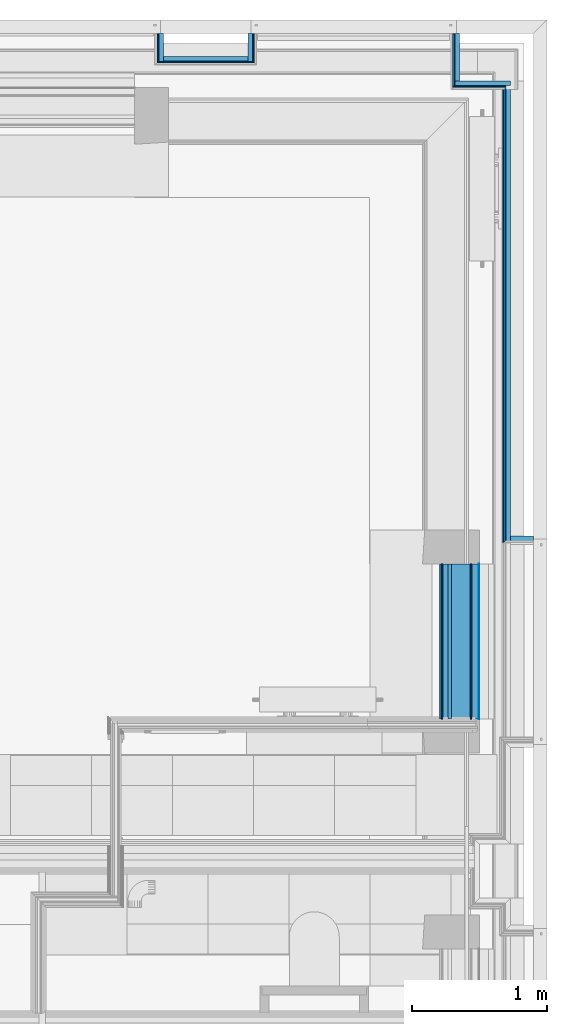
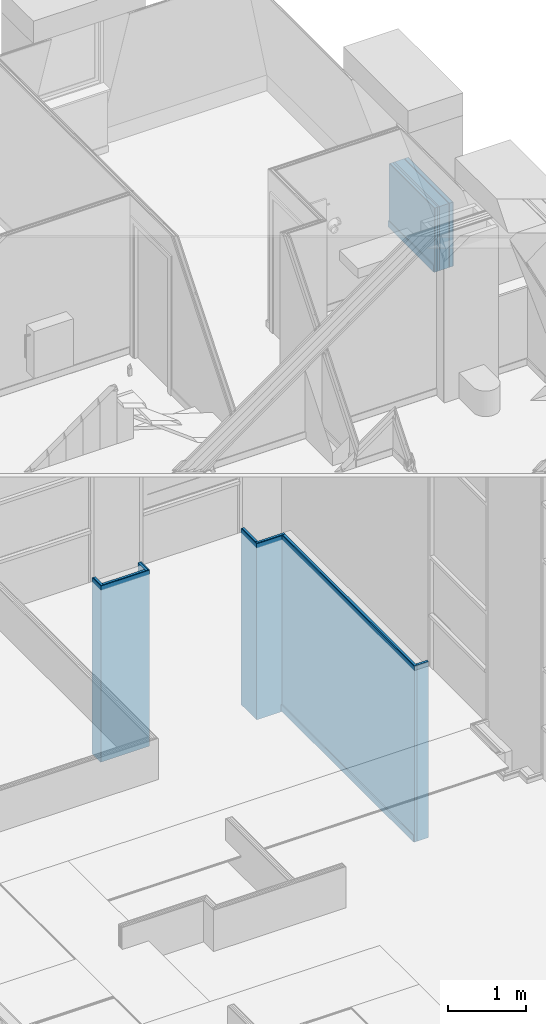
# One storey, part 48 of 169: 22 building element parts, 8 elements without a shape of their own.
"""IFC2X3 building model written with IfcOpenShell, lengths in metres."""

from ifc_helpers import new_model, entity, si_unit, converted_unit, derived_unit, money_unit, direction, frame, frame_2d, origin_with_axes, place, context, subcontext, project, spatial, polyline, rectangle, outline, extrude, material, type_object, element, aggregate, save


model = new_model("IFC2X3")

# Units and contexts
model_context = context("Model", 3, precision=1e-05, world=origin_with_axes(), true_north=direction((0.0, 1.0)))
body_context = subcontext(model_context, "Body", "Model", "MODEL_VIEW", scale=1.0)
ifc_project = project(units=[si_unit("LENGTHUNIT", "METRE"), si_unit("AREAUNIT", "SQUARE_METRE"), si_unit("VOLUMEUNIT", "CUBIC_METRE"), si_unit("ABSORBEDDOSEUNIT", "GRAY"), si_unit("AMOUNTOFSUBSTANCEUNIT", "MOLE"), si_unit("DOSEEQUIVALENTUNIT", "SIEVERT"), si_unit("ELECTRICCAPACITANCEUNIT", "FARAD"), si_unit("ELECTRICCHARGEUNIT", "COULOMB"), si_unit("ELECTRICCONDUCTANCEUNIT", "SIEMENS"), si_unit("ELECTRICCURRENTUNIT", "AMPERE"), si_unit("ELECTRICRESISTANCEUNIT", "OHM"), si_unit("ELECTRICVOLTAGEUNIT", "VOLT"), si_unit("ENERGYUNIT", "JOULE"), si_unit("FORCEUNIT", "NEWTON"), si_unit("FREQUENCYUNIT", "HERTZ"), si_unit("ILLUMINANCEUNIT", "LUX"), si_unit("INDUCTANCEUNIT", "HENRY"), si_unit("LUMINOUSFLUXUNIT", "LUMEN"), si_unit("LUMINOUSINTENSITYUNIT", "CANDELA"), si_unit("MAGNETICFLUXDENSITYUNIT", "TESLA"), si_unit("MAGNETICFLUXUNIT", "WEBER"), si_unit("MASSUNIT", "GRAM"), converted_unit("PLANEANGLEUNIT", "degree", entity("IfcReal", 0.0174532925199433), si_unit("PLANEANGLEUNIT", "RADIAN"), dimensions=[0, 0, 0, 0, 0, 0, 0]), si_unit("POWERUNIT", "WATT"), si_unit("PRESSUREUNIT", "PASCAL"), si_unit("RADIOACTIVITYUNIT", "BECQUEREL"), si_unit("SOLIDANGLEUNIT", "STERADIAN"), si_unit("THERMODYNAMICTEMPERATUREUNIT", "KELVIN"), si_unit("TIMEUNIT", "SECOND"), derived_unit("ACCELERATIONUNIT", [(si_unit("LENGTHUNIT", "METRE"), 1), (si_unit("TIMEUNIT", "SECOND"), -2)]), derived_unit("ANGULARVELOCITYUNIT", [(converted_unit("PLANEANGLEUNIT", "degree", entity("IfcReal", 0.0174532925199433), si_unit("PLANEANGLEUNIT", "RADIAN"), dimensions=[0, 0, 0, 0, 0, 0, 0]), 1), (si_unit("TIMEUNIT", "SECOND"), -1)]), derived_unit("CURVATUREUNIT", [(converted_unit("PLANEANGLEUNIT", "degree", entity("IfcReal", 0.0174532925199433), si_unit("PLANEANGLEUNIT", "RADIAN"), dimensions=[0, 0, 0, 0, 0, 0, 0]), 1), (si_unit("LENGTHUNIT", "METRE"), -1)]), derived_unit("DYNAMICVISCOSITYUNIT", [(si_unit("PRESSUREUNIT", "PASCAL"), 1), (si_unit("TIMEUNIT", "SECOND"), 1)]), derived_unit("HEATFLUXDENSITYUNIT", [(si_unit("POWERUNIT", "WATT"), 1), (si_unit("LENGTHUNIT", "METRE"), -2)]), derived_unit("HEATINGVALUEUNIT", [(si_unit("ENERGYUNIT", "JOULE"), 1), (si_unit("MASSUNIT", "GRAM"), -1)]), derived_unit("INTEGERCOUNTRATEUNIT", [(si_unit("TIMEUNIT", "SECOND"), -1)]), derived_unit("IONCONCENTRATIONUNIT", [(si_unit("MASSUNIT", "GRAM"), 1), (si_unit("VOLUMEUNIT", "CUBIC_METRE"), -1)]), derived_unit("ISOTHERMALMOISTURECAPACITYUNIT", [(si_unit("VOLUMEUNIT", "CUBIC_METRE"), 1), (si_unit("MASSUNIT", "GRAM"), -1)]), derived_unit("KINEMATICVISCOSITYUNIT", [(si_unit("AREAUNIT", "SQUARE_METRE"), 1), (si_unit("TIMEUNIT", "SECOND"), -1)]), derived_unit("LINEARFORCEUNIT", [(si_unit("FORCEUNIT", "NEWTON"), 1), (si_unit("LENGTHUNIT", "METRE"), -1)]), derived_unit("LINEARMOMENTUNIT", [(si_unit("FORCEUNIT", "NEWTON"), 1), (si_unit("LENGTHUNIT", "METRE"), -1)]), derived_unit("LINEARSTIFFNESSUNIT", [(si_unit("FORCEUNIT", "NEWTON"), 1), (si_unit("LENGTHUNIT", "METRE"), -1)]), derived_unit("LINEARVELOCITYUNIT", [(si_unit("LENGTHUNIT", "METRE"), 1), (si_unit("TIMEUNIT", "SECOND"), -1)]), derived_unit("LUMINOUSINTENSITYDISTRIBUTIONUNIT", [(si_unit("LUMINOUSINTENSITYUNIT", "CANDELA"), 1), (si_unit("LUMINOUSFLUXUNIT", "LUMEN"), -1)]), derived_unit("MASSDENSITYUNIT", [(si_unit("MASSUNIT", "GRAM"), 1), (si_unit("VOLUMEUNIT", "CUBIC_METRE"), -1)]), derived_unit("MASSFLOWRATEUNIT", [(si_unit("MASSUNIT", "GRAM"), 1), (si_unit("TIMEUNIT", "SECOND"), -1)]), derived_unit("MASSPERLENGTHUNIT", [(si_unit("MASSUNIT", "GRAM"), 1), (si_unit("LENGTHUNIT", "METRE"), -1)]), derived_unit("MODULUSOFELASTICITYUNIT", [(si_unit("FORCEUNIT", "NEWTON"), 1), (si_unit("AREAUNIT", "SQUARE_METRE"), -1)]), derived_unit("MODULUSOFLINEARSUBGRADEREACTIONUNIT", [(si_unit("FORCEUNIT", "NEWTON"), 1), (si_unit("LENGTHUNIT", "METRE"), -2)]), derived_unit("MODULUSOFROTATIONALSUBGRADEREACTIONUNIT", [(si_unit("FORCEUNIT", "NEWTON"), 1), (si_unit("LENGTHUNIT", "METRE"), 1)]), derived_unit("MODULUSOFSUBGRADEREACTIONUNIT", [(si_unit("FORCEUNIT", "NEWTON"), 1), (si_unit("VOLUMEUNIT", "CUBIC_METRE"), -1)]), derived_unit("MOISTUREDIFFUSIVITYUNIT", [(si_unit("VOLUMEUNIT", "CUBIC_METRE"), 1), (si_unit("TIMEUNIT", "SECOND"), -1)]), derived_unit("MOLECULARWEIGHTUNIT", [(si_unit("MASSUNIT", "GRAM"), 1), (si_unit("AMOUNTOFSUBSTANCEUNIT", "MOLE"), -1)]), derived_unit("PLANARFORCEUNIT", [(si_unit("FORCEUNIT", "NEWTON"), 1), (si_unit("LENGTHUNIT", "METRE"), -2)]), derived_unit("ROTATIONALFREQUENCYUNIT", [(si_unit("TIMEUNIT", "SECOND"), -1)]), derived_unit("ROTATIONALMASSUNIT", [(si_unit("MASSUNIT", "GRAM"), 1), (si_unit("LENGTHUNIT", "METRE"), 2)]), derived_unit("ROTATIONALSTIFFNESSUNIT", [(si_unit("FORCEUNIT", "NEWTON"), 1), (si_unit("LENGTHUNIT", "METRE"), 1), (converted_unit("PLANEANGLEUNIT", "degree", entity("IfcReal", 0.0174532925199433), si_unit("PLANEANGLEUNIT", "RADIAN"), dimensions=[0, 0, 0, 0, 0, 0, 0]), -1)]), derived_unit("SECTIONAREAINTEGRALUNIT", [(si_unit("LENGTHUNIT", "METRE"), 5)]), derived_unit("SECTIONMODULUSUNIT", [(si_unit("LENGTHUNIT", "METRE"), 3)]), derived_unit("SHEARMODULUSUNIT", [(si_unit("FORCEUNIT", "NEWTON"), 1), (si_unit("AREAUNIT", "SQUARE_METRE"), -1)]), derived_unit("SOUNDPOWERUNIT", [(si_unit("ENERGYUNIT", "JOULE"), 1), (si_unit("TIMEUNIT", "SECOND"), -1)]), derived_unit("SPECIFICHEATCAPACITYUNIT", [(si_unit("FORCEUNIT", "NEWTON"), 1), (si_unit("MASSUNIT", "GRAM"), -1), (si_unit("THERMODYNAMICTEMPERATUREUNIT", "KELVIN"), -1)]), derived_unit("TEMPERATUREGRADIENTUNIT", [(si_unit("THERMODYNAMICTEMPERATUREUNIT", "KELVIN"), 1), (si_unit("LENGTHUNIT", "METRE"), -1)]), derived_unit("THERMALADMITTANCEUNIT", [(si_unit("POWERUNIT", "WATT"), 1), (si_unit("AREAUNIT", "SQUARE_METRE"), -1), (si_unit("THERMODYNAMICTEMPERATUREUNIT", "KELVIN"), -1)]), derived_unit("THERMALCONDUCTANCEUNIT", [(si_unit("POWERUNIT", "WATT"), 1), (si_unit("LENGTHUNIT", "METRE"), -1), (si_unit("THERMODYNAMICTEMPERATUREUNIT", "KELVIN"), -1)]), derived_unit("THERMALEXPANSIONCOEFFICIENTUNIT", [(si_unit("THERMODYNAMICTEMPERATUREUNIT", "KELVIN"), -1)]), derived_unit("THERMALRESISTANCEUNIT", [(si_unit("AREAUNIT", "SQUARE_METRE"), 1), (si_unit("POWERUNIT", "WATT"), -1)]), derived_unit("THERMALTRANSMITTANCEUNIT", [(si_unit("POWERUNIT", "WATT"), 1), (si_unit("AREAUNIT", "SQUARE_METRE"), -1), (si_unit("THERMODYNAMICTEMPERATUREUNIT", "KELVIN"), -1)]), derived_unit("TORQUEUNIT", [(si_unit("FORCEUNIT", "NEWTON"), 1), (si_unit("LENGTHUNIT", "METRE"), 1)]), derived_unit("VAPORPERMEABILITYUNIT", [(si_unit("MASSUNIT", "GRAM"), 1), (si_unit("TIMEUNIT", "SECOND"), -1)]), derived_unit("VOLUMETRICFLOWRATEUNIT", [(si_unit("VOLUMEUNIT", "CUBIC_METRE"), 1), (si_unit("TIMEUNIT", "SECOND"), -1)]), derived_unit("WARPINGCONSTANTUNIT", [(si_unit("LENGTHUNIT", "METRE"), 6)]), derived_unit("WARPINGMOMENTUNIT", [(si_unit("FORCEUNIT", "NEWTON"), 1), (si_unit("LENGTHUNIT", "METRE"), 2)]), money_unit("GBP")], contexts=[model_context])

# Site, building, storey
site_placement = place(None, origin_with_axes())
site = spatial("IfcSite", under=ifc_project, at=site_placement, Name="Site", CompositionType="ELEMENT")
building_placement = place(site_placement, origin_with_axes())
building = spatial("IfcBuilding", under=site, at=building_placement, Name="Building01", CompositionType="ELEMENT")
storey_placement = place(building_placement, frame((0.0, 0.0, 5.15), z_axis=(0.0, 0.0, 1.0), x_axis=(1.0, 0.0, 0.0)))
storey = spatial("IfcBuildingStorey", under=building, at=storey_placement, Name="1F", CompositionType="ELEMENT", Elevation=5.15)

# Wall, building element part
wall_type_1 = type_object("IfcWallType", Name="SHE_A-Walls_Type06d_ExternalWallInsulation_48mm", PredefinedType="NOTDEFINED")
wall_1_placement = place(storey_placement, frame((26.71, 11.08018, 0.0), z_axis=(0.0, 0.0, 1.0), x_axis=(1.0, 0.0, 0.0)))
wall_1 = element("IfcWall", 1, at=wall_1_placement, inside=storey, type_object=wall_type_1, Name="6D", ObjectType="SHE_A-Walls_Type06d_ExternalWallInsulation_48mm")
ifc_material_1 = material(Name="A_BSUK_Insulation")
building_element_part_1_placement = place(wall_1_placement, origin_with_axes())
building_element_part_1 = element("IfcBuildingElementPart", 2, at=building_element_part_1_placement, material=ifc_material_1, Name="3", context=body_context, shape_type="SweptSolid", body=[
    extrude(rectangle(XDim=0.036, YDim=0.17, at=frame_2d((0.085, -0.018), x_axis=(0.0, -1.0))), origin_with_axes(), (0.0, 0.0, 1.0), 2.74),
])
aggregate(wall_1, [building_element_part_1])

# Wall, building element parts
wall_2_placement = place(storey_placement, frame((26.71, 11.04418, 0.0), z_axis=(0.0, 0.0, 1.0), x_axis=(0.0, 1.0, 0.0)))
wall_2 = element("IfcWall", 3, at=wall_2_placement, inside=storey, type_object=wall_type_1, Name="6D", ObjectType="SHE_A-Walls_Type06d_ExternalWallInsulation_48mm")
placement_1 = place(wall_2_placement, origin_with_axes())
building_element_part_2 = element("IfcBuildingElementPart", 4, at=placement_1, material=ifc_material_1, Name="1", context=body_context, shape_type="SweptSolid", body=[
    extrude(rectangle(XDim=3.36982, YDim=0.036, at=frame_2d((1.68491, 0.018), x_axis=(-1.0, 0.0))), origin_with_axes(), (0.0, 0.0, 1.0), 2.74),
])
ifc_material_2 = material(Name="A_BSUK_WallInternal_Finishes_Plasterboard")
building_element_part_3 = element("IfcBuildingElementPart", 5, at=placement_1, material=ifc_material_2, Name="2", context=body_context, shape_type="SweptSolid", body=[
    extrude(outline(polyline([(3.35782, 0.048), (-0.012, 0.048), (0.001, 0.035), (3.35782, 0.035), (3.35782, 0.048)])), origin_with_axes(), (0.0, 0.0, 1.0), 2.74),
])
ifc_material_3 = material(Name="A_BSUK_Walls_Timber")
building_element_part_4 = element("IfcBuildingElementPart", 6, at=placement_1, material=ifc_material_3, Name="3", context=body_context, shape_type="SweptSolid", body=[
    extrude(outline(polyline([(3.35782, 0.063), (-0.012, 0.063), (-0.012, 0.048), (3.37282, 0.048), (3.35782, 0.063)])), frame((0.0, 0.0, 0.015), z_axis=(0.0, 0.0, 1.0), x_axis=(1.0, 0.0, 0.0)), (0.0, 0.0, 1.0), 0.1),
])
aggregate(wall_2, [building_element_part_2, building_element_part_3, building_element_part_4])

wall_3_placement = place(storey_placement, frame((26.71, 14.45, 0.0), z_axis=(0.0, 0.0, 1.0), x_axis=(-1.0, 0.0, 0.0)))
wall_3 = element("IfcWall", 7, at=wall_3_placement, inside=storey, type_object=wall_type_1, Name="6D", ObjectType="SHE_A-Walls_Type06d_ExternalWallInsulation_48mm")
placement_2 = place(wall_3_placement, origin_with_axes())
building_element_part_5 = element("IfcBuildingElementPart", 8, at=placement_2, material=ifc_material_1, Name="1", context=body_context, shape_type="SweptSolid", body=[
    extrude(rectangle(XDim=0.413, YDim=0.036, at=frame_2d((0.2065, 0.018), x_axis=(-1.0, 0.0))), origin_with_axes(), (0.0, 0.0, 1.0), 2.74),
])
building_element_part_6 = element("IfcBuildingElementPart", 9, at=placement_2, material=ifc_material_2, Name="2", context=body_context, shape_type="SweptSolid", body=[
    extrude(outline(polyline([(0.425, 0.048), (0.035, 0.048), (0.035, 0.035), (0.412, 0.035), (0.425, 0.048)])), origin_with_axes(), (0.0, 0.0, 1.0), 2.74),
])
aggregate(wall_3, [building_element_part_5, building_element_part_6])

wall_4_placement = place(storey_placement, frame((26.333, 14.45, 0.0), z_axis=(0.0, 0.0, 1.0), x_axis=(0.0, 1.0, 0.0)))
wall_4 = element("IfcWall", 10, at=wall_4_placement, inside=storey, type_object=wall_type_1, Name="6D", ObjectType="SHE_A-Walls_Type06d_ExternalWallInsulation_48mm")
placement_3 = place(wall_4_placement, origin_with_axes())
building_element_part_7 = element("IfcBuildingElementPart", 11, at=placement_3, material=ifc_material_1, Name="1", context=body_context, shape_type="SweptSolid", body=[
    extrude(rectangle(XDim=0.35, YDim=0.036, at=frame_2d((0.175, 0.018), x_axis=(-1.0, 0.0))), origin_with_axes(), (0.0, 0.0, 1.0), 2.74),
])
building_element_part_8 = element("IfcBuildingElementPart", 12, at=placement_3, material=ifc_material_2, Name="2", context=body_context, shape_type="SweptSolid", body=[
    extrude(outline(polyline([(0.35, 0.048), (-0.048, 0.048), (-0.035, 0.035), (0.35, 0.035), (0.35, 0.048)])), origin_with_axes(), (0.0, 0.0, 1.0), 2.74),
])
aggregate(wall_4, [building_element_part_7, building_element_part_8])

wall_5_placement = place(storey_placement, frame((24.767, 14.8, 0.0), z_axis=(0.0, 0.0, 1.0), x_axis=(0.0, -1.0, 0.0)))
wall_5 = element("IfcWall", 13, at=wall_5_placement, inside=storey, type_object=wall_type_1, Name="6D", ObjectType="SHE_A-Walls_Type06d_ExternalWallInsulation_48mm")
placement_4 = place(wall_5_placement, origin_with_axes())
building_element_part_9 = element("IfcBuildingElementPart", 14, at=placement_4, material=ifc_material_1, Name="1", context=body_context, shape_type="SweptSolid", body=[
    extrude(rectangle(XDim=0.206, YDim=0.036, at=frame_2d((0.103, 0.018), x_axis=(-1.0, 0.0))), origin_with_axes(), (0.0, 0.0, 1.0), 2.74),
])
building_element_part_10 = element("IfcBuildingElementPart", 15, at=placement_4, material=ifc_material_2, Name="2", context=body_context, shape_type="SweptSolid", body=[
    extrude(outline(polyline([(0.218, 0.048), (0.0, 0.048), (0.0, 0.035), (0.205, 0.035), (0.218, 0.048)])), origin_with_axes(), (0.0, 0.0, 1.0), 2.74),
])
aggregate(wall_5, [building_element_part_9, building_element_part_10])

wall_6_placement = place(storey_placement, frame((24.767, 14.63, 0.0), z_axis=(0.0, 0.0, 1.0), x_axis=(-1.0, 0.0, 0.0)))
wall_6 = element("IfcWall", 16, at=wall_6_placement, inside=storey, type_object=wall_type_1, Name="6D", ObjectType="SHE_A-Walls_Type06d_ExternalWallInsulation_48mm")
placement_5 = place(wall_6_placement, origin_with_axes())
building_element_part_11 = element("IfcBuildingElementPart", 17, at=placement_5, material=ifc_material_1, Name="1", context=body_context, shape_type="SweptSolid", body=[
    extrude(rectangle(XDim=0.624, YDim=0.036, at=frame_2d((0.312, 0.018), x_axis=(-1.0, 0.0))), origin_with_axes(), (0.0, 0.0, 1.0), 2.74),
])
building_element_part_12 = element("IfcBuildingElementPart", 18, at=placement_5, material=ifc_material_2, Name="2", context=body_context, shape_type="SweptSolid", body=[
    extrude(outline(polyline([(0.672, 0.048), (-0.048, 0.048), (-0.035, 0.035), (0.659, 0.035), (0.672, 0.048)])), origin_with_axes(), (0.0, 0.0, 1.0), 2.74),
])
aggregate(wall_6, [building_element_part_11, building_element_part_12])

wall_7_placement = place(storey_placement, frame((24.143, 14.594, 0.0), z_axis=(0.0, 0.0, 1.0), x_axis=(0.0, 1.0, 0.0)))
wall_7 = element("IfcWall", 19, at=wall_7_placement, inside=storey, type_object=wall_type_1, Name="6D", ObjectType="SHE_A-Walls_Type06d_ExternalWallInsulation_48mm")
placement_6 = place(wall_7_placement, origin_with_axes())
building_element_part_13 = element("IfcBuildingElementPart", 20, at=placement_6, material=ifc_material_1, Name="1", context=body_context, shape_type="SweptSolid", body=[
    extrude(rectangle(XDim=0.036, YDim=0.206, at=frame_2d((0.103, 0.018), x_axis=(0.0, -1.0))), origin_with_axes(), (0.0, 0.0, 1.0), 2.74),
])
building_element_part_14 = element("IfcBuildingElementPart", 21, at=placement_6, material=ifc_material_2, Name="2", context=body_context, shape_type="SweptSolid", body=[
    extrude(outline(polyline([(-0.012, 0.048), (0.001, 0.035), (0.206, 0.035), (0.206, 0.048), (-0.012, 0.048)])), origin_with_axes(), (0.0, 0.0, 1.0), 2.74),
])
aggregate(wall_7, [building_element_part_13, building_element_part_14])

wall_type_2 = type_object("IfcWallType", Name="SHE_A-Walls_Type06e_ExternalWallPenthouse_280mm", PredefinedType="NOTDEFINED")
wall_8_placement = place(storey_placement, frame((26.415061, 10.874915, 9.83), z_axis=(0.0, 0.0, 1.0), x_axis=(0.0, -1.0, 0.0)))
wall_8 = element("IfcWall", 22, at=wall_8_placement, inside=storey, type_object=wall_type_2, Name="6E", ObjectType="SHE_A-Walls_Type06e_ExternalWallPenthouse_280mm")
placement_7 = place(wall_8_placement, origin_with_axes())
building_element_part_15 = element("IfcBuildingElementPart", 23, at=placement_7, material=ifc_material_3, Name="1", context=body_context, shape_type="SweptSolid", body=[
    extrude(rectangle(XDim=1.149951, YDim=0.015, at=frame_2d((0.574976, -0.2225), x_axis=(-1.0, 0.0))), frame((0.0, 0.0, 0.015), z_axis=(0.0, 0.0, 1.0), x_axis=(1.0, 0.0, 0.0)), (0.0, 0.0, 1.0), 0.1),
])
building_element_part_16 = element("IfcBuildingElementPart", 24, at=placement_7, material=ifc_material_2, Name="2", context=body_context, shape_type="SweptSolid", body=[
    extrude(rectangle(XDim=1.149951, YDim=0.01, at=frame_2d((0.574976, -0.21), x_axis=(-1.0, 0.0))), origin_with_axes(), (0.0, 0.0, 1.0), 1.0),
])
building_element_part_17 = element("IfcBuildingElementPart", 25, at=placement_7, material=ifc_material_1, Name="3", context=body_context, shape_type="SweptSolid", body=[
    extrude(rectangle(XDim=1.149951, YDim=0.04, at=frame_2d((0.574976, -0.185), x_axis=(-1.0, 0.0))), origin_with_axes(), (0.0, 0.0, 1.0), 1.0),
])
ifc_material_4 = material(Name="Air Cavity")
building_element_part_18 = element("IfcBuildingElementPart", 26, at=placement_7, material=ifc_material_4, Name="4", context=body_context, shape_type="SweptSolid", body=[
    extrude(rectangle(XDim=1.149951, YDim=0.025, at=frame_2d((0.574976, -0.1525), x_axis=(-1.0, 0.0))), origin_with_axes(), (0.0, 0.0, 1.0), 1.0),
])
building_element_part_19 = element("IfcBuildingElementPart", 27, at=placement_7, material=ifc_material_1, Name="5", context=body_context, shape_type="SweptSolid", body=[
    extrude(rectangle(XDim=1.149951, YDim=0.14, at=frame_2d((0.574976, -0.07), x_axis=(-1.0, 0.0))), origin_with_axes(), (0.0, 0.0, 1.0), 1.0),
])
building_element_part_20 = element("IfcBuildingElementPart", 28, at=placement_7, material=ifc_material_3, Name="6", context=body_context, shape_type="SweptSolid", body=[
    extrude(rectangle(XDim=1.149951, YDim=0.01, at=frame_2d((0.574976, 0.005), x_axis=(-1.0, 0.0))), origin_with_axes(), (0.0, 0.0, 1.0), 1.0),
])
building_element_part_21 = element("IfcBuildingElementPart", 29, at=placement_7, material=ifc_material_4, Name="7", context=body_context, shape_type="SweptSolid", body=[
    extrude(rectangle(XDim=1.149951, YDim=0.05, at=frame_2d((0.574976, 0.035), x_axis=(-1.0, 0.0))), origin_with_axes(), (0.0, 0.0, 1.0), 1.0),
])
ifc_material_5 = material(Name="A_BSUK_WallInternal_Finishes_Metal")
building_element_part_22 = element("IfcBuildingElementPart", 30, at=placement_7, material=ifc_material_5, Name="8", context=body_context, shape_type="SweptSolid", body=[
    extrude(rectangle(XDim=1.149951, YDim=0.005, at=frame_2d((0.574976, 0.0625), x_axis=(-1.0, 0.0))), origin_with_axes(), (0.0, 0.0, 1.0), 1.0),
])
aggregate(wall_8, [building_element_part_15, building_element_part_16, building_element_part_17, building_element_part_18, building_element_part_19, building_element_part_20, building_element_part_21, building_element_part_22])

save(model, "model.ifc")
